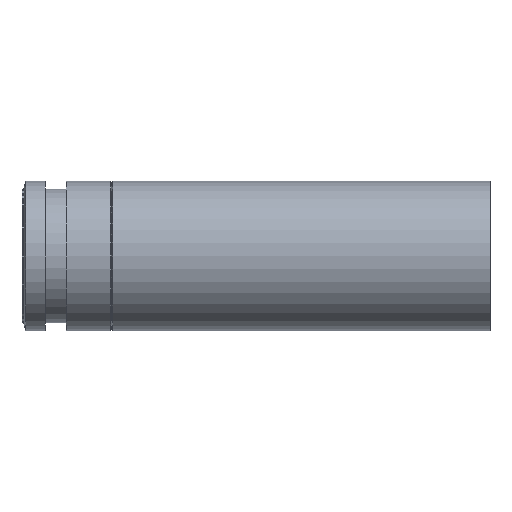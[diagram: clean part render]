
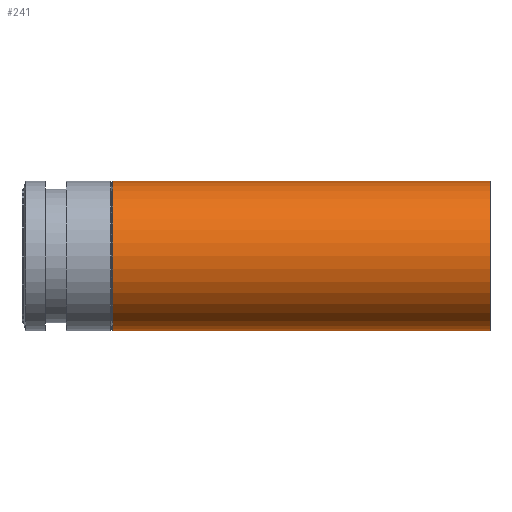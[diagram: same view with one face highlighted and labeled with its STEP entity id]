
A CAD part, front view. The second image highlights one B-rep face of the part: STEP entity #241.
In plain terms, the highlighted cylindrical face has radius 55 mm (diameter 110 mm), a full revolution.
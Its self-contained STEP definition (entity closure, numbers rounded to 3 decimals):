
#23=CYLINDRICAL_SURFACE($,#275,55.);
#39=FACE_BOUND($,#91,.T.);
#62=FACE_OUTER_BOUND($,#90,.T.);
#90=EDGE_LOOP($,(#200));
#91=EDGE_LOOP($,(#201));
#118=CIRCLE($,#259,55.);
#127=CIRCLE($,#276,55.);
#140=VERTEX_POINT($,#394);
#149=VERTEX_POINT($,#420);
#162=EDGE_CURVE($,#140,#140,#118,.T.);
#171=EDGE_CURVE($,#149,#149,#127,.T.);
#200=ORIENTED_EDGE($,*,*,#162,.T.);
#201=ORIENTED_EDGE($,*,*,#171,.F.);
#241=ADVANCED_FACE($,(#62,#39),#23,.T.);
#259=AXIS2_PLACEMENT_3D($,#395,#306,#307);
#275=AXIS2_PLACEMENT_3D($,#419,#338,#339);
#276=AXIS2_PLACEMENT_3D($,#421,#340,#341);
#306=DIRECTION('center_axis',(1.,0.,0.));
#307=DIRECTION('ref_axis',(0.,1.,0.));
#338=DIRECTION('center_axis',(1.,0.,0.));
#339=DIRECTION('ref_axis',(0.,1.,0.));
#340=DIRECTION('center_axis',(1.,0.,0.));
#341=DIRECTION('ref_axis',(0.,1.,0.));
#394=CARTESIAN_POINT('',(66.8,55.,0.));
#395=CARTESIAN_POINT('Origin',(66.8,0.,0.));
#419=CARTESIAN_POINT('Origin',(188.75,0.,0.));
#420=CARTESIAN_POINT('',(345.,55.,0.));
#421=CARTESIAN_POINT('Origin',(345.,0.,0.));
